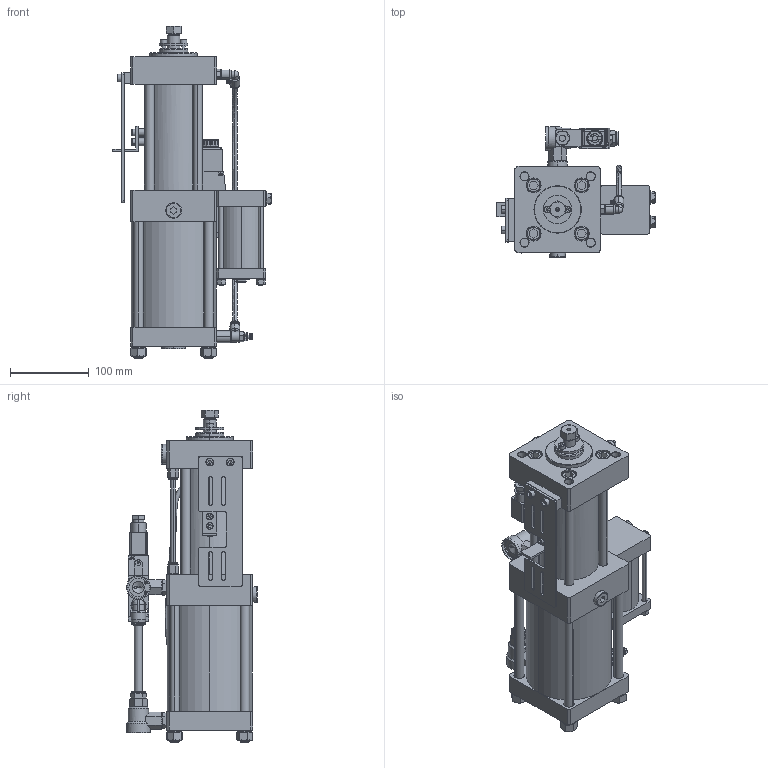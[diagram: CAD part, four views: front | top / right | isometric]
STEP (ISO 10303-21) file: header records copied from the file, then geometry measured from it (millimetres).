
FILE_DESCRIPTION (( 'STEP AP203' ), '1' );
FILE_NAME ('PCT3 10036 VC11.STEP', '2017-12-05T06:32:06', ( '' ), ( '' ), 'SwSTEP 2.0', 'SolidWorks 2015', '' );
FILE_SCHEMA (( 'CONFIG_CONTROL_DESIGN' ));
Length unit declared in the file: millimetre
Products named in the file (39): GASKET; Part4^PCT; Janatics-Male elbow_Male threaded nipple_Dia 10 x 14; Janatics-Male connector_Collet cap_DIA 6; plain washer (type a)_is_IS 2016 A- 9; INT TUBE; spring lock washer 6735_is_IS 6735- 12; Janatics-Male elbow_Male elbow; 1 8 BSP PU 6_Janatics-Male connector_Male connector; hexagon fit bolt_is_IS 3640 - M8 x 25 x 14.5-N; INT FEC; hexagon nut style 1_is_IS 1364-3 - M12-W-N; Part1^PCT; Part2^PCT; QEV; INT TR; PCT3 10036 VC11; 18Janatics-Male elbow_Male threaded nipple_Dia 6 x 18; Janatics-WN015152WN015152_WN015152; spring lock washer 6735_is_IS 6735- 6; PCT CYL_PCT3 10036 VC11; 18Janatics-Male elbow_elbow_DIA 6; Janatics-WN015151WN015151_WN015151; hexagon nut_is_IS 1363-2 - M6-N; socket head cap screw_is_IS 2269 - M5 x 8-N; 18Janatics-Male elbow_Collet cap_DIA 6; DC VALVE-Janatics-DEFAULT_DS255SR61; (normal) internal_is_IS 3075(Part2) NI- 26; 3 8 BSP PLUG; socket head cap screw_is_IS 2269 - M6 x 10-N; 1 8 BSP FCV-Janatics-GR2_GR1105006; Janatics-Male elbow_elbow_DIA 10; 1 4 BSP QEV; SILENCER; INT REC; Part3^PCT; Janatics-Male elbow_Collet cap_DIA 10; Janatics-Male connector_housing MC_WP2110650; CONTAINER PRA-03
Assembly tree (69 placements, depth 3):
  PCT3 10036 VC11
    PCT CYL_PCT3 10036 VC11
    socket head cap screw_is_IS 2269 - M5 x 8-N  x4
    socket head cap screw_is_IS 2269 - M6 x 10-N  x2
    CONTAINER PRA-03
      INT REC
      GASKET  x2
      INT TUBE
      INT FEC
      INT TR  x4
      spring lock washer 6735_is_IS 6735- 6  x4
      hexagon nut_is_IS 1363-2 - M6-N  x4
      3 8 BSP PLUG
      SILENCER
    plain washer (type a)_is_IS 2016 A- 9  x2
    hexagon fit bolt_is_IS 3640 - M8 x 25 x 14.5-N  x2
    1 4 BSP QEV
      QEV
      (normal) internal_is_IS 3075(Part2) NI- 26
    QEV
    1 8 BSP PU 6_Janatics-Male connector_Male connector  x2
      Janatics-Male connector_housing MC_WP2110650
      Janatics-Male connector_Collet cap_DIA 6
    Part2^PCT
    Janatics-WN015152WN015152_WN015152  x2
    Janatics-WN015151WN015151_WN015151
    DC VALVE-Janatics-DEFAULT_DS255SR61
    (normal) internal_is_IS 3075(Part2) NI- 26
    Janatics-Male elbow_Male elbow
      Janatics-Male elbow_elbow_DIA 10
      Janatics-Male elbow_Collet cap_DIA 10
      Janatics-Male elbow_Male threaded nipple_Dia 10 x 14
    Janatics-Male elbow_Collet cap_DIA 10  x2
    Janatics-Male elbow_Male threaded nipple_Dia 10 x 14  x2
    Part1^PCT
    SILENCER  x2
    18Janatics-Male elbow_Male threaded nipple_Dia 6 x 18
    18Janatics-Male elbow_elbow_DIA 6
    18Janatics-Male elbow_Collet cap_DIA 6
    1 8 BSP FCV-Janatics-GR2_GR1105006
    Part4^PCT
    spring lock washer 6735_is_IS 6735- 12  x4
    hexagon nut style 1_is_IS 1364-3 - M12-W-N  x4
  Part3^PCT
Bounding box: 200.6 x 166 x 421 mm (x, y, z)
Volume: 3510799.9 mm3; surface area: 517227.1 mm2
Topology: 87 solids, 88 shells, 4351 faces, 10952 edges, 6921 vertices
Faces by surface type: plane 1938, cylinder 1350, cone 726, torus 177, bspline 145, sphere 15
Entity records: 107548 total; most frequent: CARTESIAN_POINT 25745, ORIENTED_EDGE 16112, DIRECTION 15997, EDGE_CURVE 8056, AXIS2_PLACEMENT_3D 5848, VERTEX_POINT 5150, LINE 4301, VECTOR 4301
